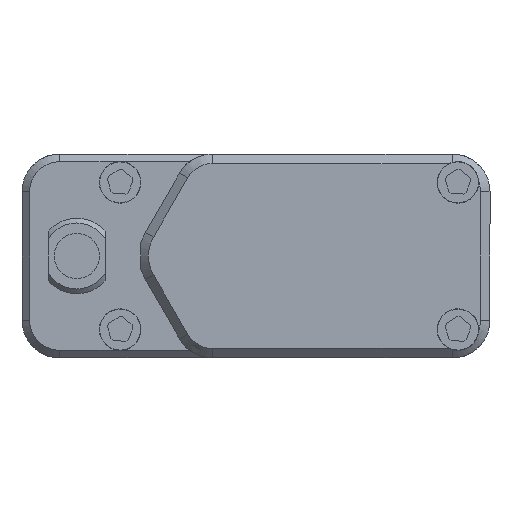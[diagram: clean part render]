
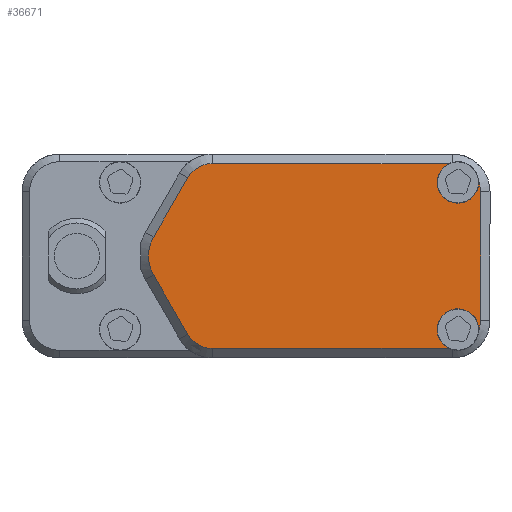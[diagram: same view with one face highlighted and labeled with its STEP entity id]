
A CAD part, front view. The second image highlights one B-rep face of the part: STEP entity #36671.
In plain terms, the highlighted planar face has unit normal (0, -1, 0).
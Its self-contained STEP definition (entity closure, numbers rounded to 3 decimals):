
#391 = CARTESIAN_POINT ( 'NONE',  ( 0., 6.7, -5.4 ) ) ;
#1092 = VERTEX_POINT ( 'NONE', #19912 ) ;
#1103 = DIRECTION ( 'NONE',  ( -0.5, 0., 0.866 ) ) ;
#1949 = DIRECTION ( 'NONE',  ( 0., 0., 1. ) ) ;
#2267 = CARTESIAN_POINT ( 'NONE',  ( 3.613, 6.7, -9.55 ) ) ;
#4145 = ORIENTED_EDGE ( 'NONE', *, *, #26230, .T. ) ;
#4386 = VECTOR ( 'NONE', #9033, 1000. ) ;
#4395 = CARTESIAN_POINT ( 'NONE',  ( 3.613, 6.7, -1.25 ) ) ;
#5145 = ORIENTED_EDGE ( 'NONE', *, *, #40640, .T. ) ;
#5426 = VERTEX_POINT ( 'NONE', #16287 ) ;
#5452 = CARTESIAN_POINT ( 'NONE',  ( 3.613, 6.7, -1.25 ) ) ;
#5485 = LINE ( 'NONE', #25363, #35566 ) ;
#5951 = VECTOR ( 'NONE', #32193, 1000. ) ;
#6116 = VERTEX_POINT ( 'NONE', #2267 ) ;
#6337 = DIRECTION ( 'NONE',  ( 0., -1., 0. ) ) ;
#6368 = DIRECTION ( 'NONE',  ( 0., 0., 1. ) ) ;
#6397 = CARTESIAN_POINT ( 'NONE',  ( -10.7, 6.7, -9.3 ) ) ;
#6492 = AXIS2_PLACEMENT_3D ( 'NONE', #17393, #30635, #20472 ) ;
#6613 = AXIS2_PLACEMENT_3D ( 'NONE', #27732, #20450, #21102 ) ;
#6797 = EDGE_CURVE ( 'NONE', #38124, #9793, #40781, .T. ) ;
#6842 = DIRECTION ( 'NONE',  ( 0., 0., 1. ) ) ;
#6989 = DIRECTION ( 'NONE',  ( 0., 0., 1. ) ) ;
#7121 = VERTEX_POINT ( 'NONE', #8896 ) ;
#7850 = EDGE_CURVE ( 'NONE', #6116, #38481, #5485, .T. ) ;
#7897 = DIRECTION ( 'NONE',  ( 0., 0., 1. ) ) ;
#8017 = CARTESIAN_POINT ( 'NONE',  ( -10.242, 6.7, -0.5 ) ) ;
#8265 = CARTESIAN_POINT ( 'NONE',  ( 0., 6.7, -10.3 ) ) ;
#8896 = CARTESIAN_POINT ( 'NONE',  ( 2.314, 6.7, -0.5 ) ) ;
#8998 = CARTESIAN_POINT ( 'NONE',  ( -11.799, 6.7, -9.34 ) ) ;
#9033 = DIRECTION ( 'NONE',  ( -1., 0., 0. ) ) ;
#9657 = CARTESIAN_POINT ( 'NONE',  ( -10.4, 6.7, -8.8 ) ) ;
#9793 = VERTEX_POINT ( 'NONE', #5452 ) ;
#10354 = ORIENTED_EDGE ( 'NONE', *, *, #30781, .F. ) ;
#11121 = CARTESIAN_POINT ( 'NONE',  ( 5.432, 6.7, -4.4 ) ) ;
#11325 = EDGE_CURVE ( 'NONE', #38481, #38124, #30057, .T. ) ;
#11338 = CARTESIAN_POINT ( 'NONE',  ( -11.9, 6.7, -2. ) ) ;
#11791 = LINE ( 'NONE', #8265, #25653 ) ;
#11851 = CARTESIAN_POINT ( 'NONE',  ( -10.242, 6.7, -10.3 ) ) ;
#12231 = VERTEX_POINT ( 'NONE', #8017 ) ;
#13200 = FACE_OUTER_BOUND ( 'NONE', #15894, .T. ) ;
#13443 = CARTESIAN_POINT ( 'NONE',  ( 2.314, 6.7, -2. ) ) ;
#14010 = EDGE_CURVE ( 'NONE', #20015, #40879, #15396, .T. ) ;
#15396 = CIRCLE ( 'NONE', #25952, 1.1 ) ;
#15894 = EDGE_LOOP ( 'NONE', ( #33027, #21527, #31575, #5145, #34435, #21899, #34178, #35044, #22251, #4145, #10354, #28224 ) ) ;
#16066 = EDGE_CURVE ( 'NONE', #5426, #40879, #18283, .T. ) ;
#16186 = CARTESIAN_POINT ( 'NONE',  ( 2.314, 6.7, -8.8 ) ) ;
#16287 = CARTESIAN_POINT ( 'NONE',  ( -11.9, 6.7, -8.8 ) ) ;
#16921 = EDGE_CURVE ( 'NONE', #41683, #6116, #33097, .T. ) ;
#17166 = AXIS2_PLACEMENT_3D ( 'NONE', #391, #6337, #6989 ) ;
#17393 = CARTESIAN_POINT ( 'NONE',  ( -10.4, 6.7, -2. ) ) ;
#18283 = CIRCLE ( 'NONE', #19716, 1.5 ) ;
#18502 = CARTESIAN_POINT ( 'NONE',  ( 3.7, 6.7, -5.4 ) ) ;
#18958 = CARTESIAN_POINT ( 'NONE',  ( -11.9, 6.7, -5.4 ) ) ;
#19716 = AXIS2_PLACEMENT_3D ( 'NONE', #9657, #35689, #1949 ) ;
#19733 = CARTESIAN_POINT ( 'NONE',  ( 5.432, 6.7, -6.4 ) ) ;
#19912 = CARTESIAN_POINT ( 'NONE',  ( -11.799, 6.7, -1.46 ) ) ;
#20015 = VERTEX_POINT ( 'NONE', #11851 ) ;
#20085 = VECTOR ( 'NONE', #1103, 1000. ) ;
#20370 = DIRECTION ( 'NONE',  ( 0., 0., 1. ) ) ;
#20450 = DIRECTION ( 'NONE',  ( 0., -1., 0. ) ) ;
#20472 = DIRECTION ( 'NONE',  ( 0., 0., 1. ) ) ;
#21102 = DIRECTION ( 'NONE',  ( 0., 0., 1. ) ) ;
#21527 = ORIENTED_EDGE ( 'NONE', *, *, #16066, .T. ) ;
#21899 = ORIENTED_EDGE ( 'NONE', *, *, #7850, .T. ) ;
#22251 = ORIENTED_EDGE ( 'NONE', *, *, #34171, .T. ) ;
#22477 = LINE ( 'NONE', #18958, #5951 ) ;
#22498 = LINE ( 'NONE', #35066, #4386 ) ;
#24830 = CIRCLE ( 'NONE', #6492, 1.5 ) ;
#25363 = CARTESIAN_POINT ( 'NONE',  ( 4.507, 6.7, -8.002 ) ) ;
#25653 = VECTOR ( 'NONE', #38690, 1000. ) ;
#25952 = AXIS2_PLACEMENT_3D ( 'NONE', #6397, #37072, #6842 ) ;
#26230 = EDGE_CURVE ( 'NONE', #7121, #12231, #22498, .T. ) ;
#26912 = VERTEX_POINT ( 'NONE', #11338 ) ;
#27732 = CARTESIAN_POINT ( 'NONE',  ( -10.7, 6.7, -1.5 ) ) ;
#28224 = ORIENTED_EDGE ( 'NONE', *, *, #37802, .T. ) ;
#28896 = AXIS2_PLACEMENT_3D ( 'NONE', #16186, #37121, #20370 ) ;
#28989 = CARTESIAN_POINT ( 'NONE',  ( 2.314, 6.7, -10.3 ) ) ;
#29803 = EDGE_CURVE ( 'NONE', #26912, #5426, #22477, .T. ) ;
#30014 = DIRECTION ( 'NONE',  ( 0., -1., 0. ) ) ;
#30057 = CIRCLE ( 'NONE', #37770, 2. ) ;
#30635 = DIRECTION ( 'NONE',  ( 0., -1., 0. ) ) ;
#30781 = EDGE_CURVE ( 'NONE', #1092, #12231, #33458, .T. ) ;
#31575 = ORIENTED_EDGE ( 'NONE', *, *, #14010, .F. ) ;
#32193 = DIRECTION ( 'NONE',  ( 0., 0., -1. ) ) ;
#33027 = ORIENTED_EDGE ( 'NONE', *, *, #29803, .T. ) ;
#33097 = CIRCLE ( 'NONE', #28896, 1.5 ) ;
#33458 = CIRCLE ( 'NONE', #6613, 1.1 ) ;
#33481 = PLANE ( 'NONE',  #17166 ) ;
#34171 = EDGE_CURVE ( 'NONE', #9793, #7121, #37439, .T. ) ;
#34178 = ORIENTED_EDGE ( 'NONE', *, *, #11325, .T. ) ;
#34435 = ORIENTED_EDGE ( 'NONE', *, *, #16921, .T. ) ;
#35044 = ORIENTED_EDGE ( 'NONE', *, *, #6797, .T. ) ;
#35066 = CARTESIAN_POINT ( 'NONE',  ( 0., 6.7, -0.5 ) ) ;
#35566 = VECTOR ( 'NONE', #42318, 1000. ) ;
#35689 = DIRECTION ( 'NONE',  ( 0., -1., 0. ) ) ;
#36671 = ADVANCED_FACE ( 'NONE', ( #13200 ), #33481, .T. ) ;
#37072 = DIRECTION ( 'NONE',  ( 0., -1., 0. ) ) ;
#37121 = DIRECTION ( 'NONE',  ( 0., -1., 0. ) ) ;
#37439 = CIRCLE ( 'NONE', #41649, 1.5 ) ;
#37684 = DIRECTION ( 'NONE',  ( 0., -1., 0. ) ) ;
#37770 = AXIS2_PLACEMENT_3D ( 'NONE', #18502, #37684, #7897 ) ;
#37802 = EDGE_CURVE ( 'NONE', #1092, #26912, #24830, .T. ) ;
#38124 = VERTEX_POINT ( 'NONE', #11121 ) ;
#38481 = VERTEX_POINT ( 'NONE', #19733 ) ;
#38690 = DIRECTION ( 'NONE',  ( 1., 0., 0. ) ) ;
#40640 = EDGE_CURVE ( 'NONE', #20015, #41683, #11791, .T. ) ;
#40781 = LINE ( 'NONE', #4395, #20085 ) ;
#40879 = VERTEX_POINT ( 'NONE', #8998 ) ;
#41649 = AXIS2_PLACEMENT_3D ( 'NONE', #13443, #30014, #6368 ) ;
#41683 = VERTEX_POINT ( 'NONE', #28989 ) ;
#42318 = DIRECTION ( 'NONE',  ( 0.5, 0., 0.866 ) ) ;
